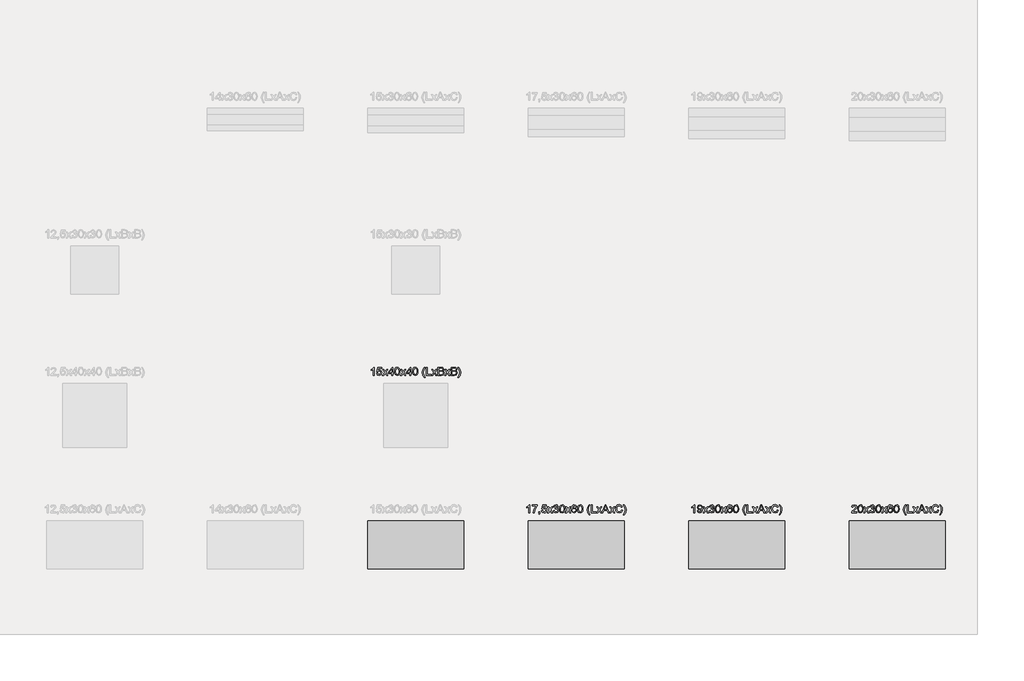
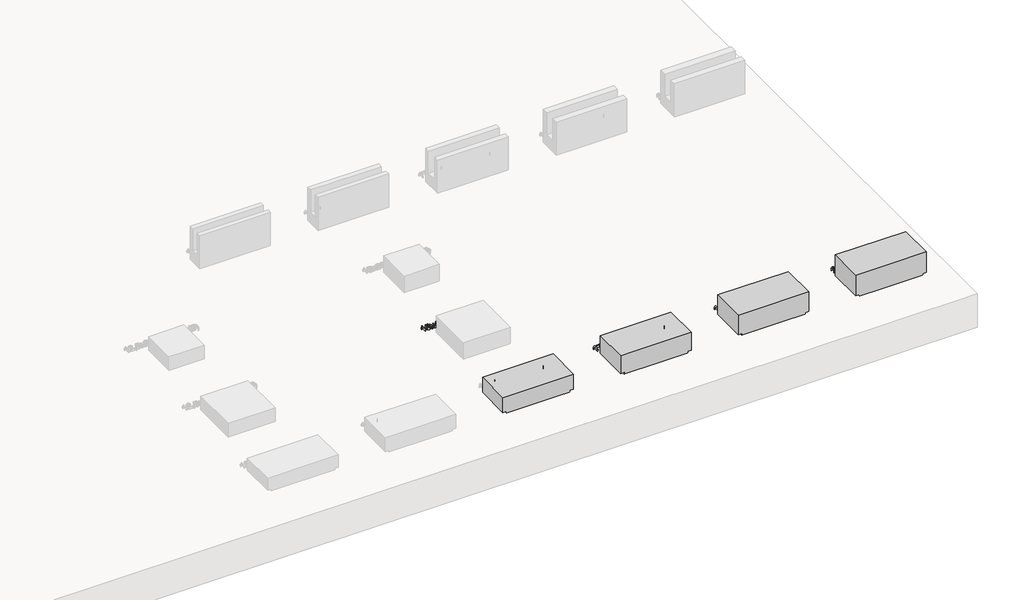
# One storey, part 7 of 26: 8 proxies.
"""IFC4 building model written with IfcOpenShell, lengths in millimetres."""

from ifc_helpers import new_model, si_unit, origin, origin_with_axes, place, context, project, spatial, polyline, outline, extrude, transform, mapped, element, save
from components import generic_models_699c91c1, generic_models_ba2a04ef, generic_models_78aa975b, generic_models_17415f59

model = new_model("IFC4")

# Units and contexts
model_context = context("Model", 3, world=origin())
ifc_project = project(units=[si_unit("LENGTHUNIT", "METRE", prefix="MILLI")], contexts=[model_context])

# Site, building, storey
site = spatial("IfcSite", under=ifc_project)
building = spatial("IfcBuilding", under=site)
storey = spatial("IfcBuildingStorey", under=building, Name="Catálogo Celucon", Elevation=0.0)

# Proxies
placement = place(None, origin())
element("IfcBuildingElementProxy", 1, Name="Dimensões", ObjectType="Dimensões", at=placement, inside=storey, context=model_context, shape_type="SweptSolid", body=[
    extrude(outline(polyline([(-6756.0644853, -3742.533155), (-6762.3430047, -3742.533155), (-6762.3430047, -3703.3905107), (-6768.2904303, -3707.6272851), (-6774.9000435, -3710.7972016), (-6774.9000435, -3704.8620387), (-6765.6968622, -3698.9881895), (-6760.1111873, -3692.305), (-6756.0644853, -3692.305), (-6756.0644853, -3742.533155)])), origin_with_axes(), (0.0, 0.0, 1.0), 20.0),
    extrude(outline(polyline([(-6741.1530018, -3729.1913013), (-6734.8744824, -3728.4064864), (-6731.7106972, -3734.8750782), (-6725.150135, -3737.0394506), (-6717.2774603, -3734.0289496), (-6714.4692944, -3726.0397789), (-6717.0996507, -3718.5840371), (-6725.0520331, -3715.8494476), (-6730.5641317, -3716.9408309), (-6734.0896675, -3719.7735223), (-6740.3681868, -3718.9887073), (-6734.8744824, -3693.0898149), (-6710.5452198, -3693.0898149), (-6710.5452198, -3699.3683343), (-6729.7977109, -3699.3683343), (-6732.4832494, -3713.2006973), (-6723.2984623, -3709.5709283), (-6712.5624394, -3714.0713513), (-6708.190775, -3725.6473714), (-6712.1271124, -3737.296968), (-6717.7802323, -3741.8127195), (-6725.1746604, -3743.31797), (-6736.2540399, -3739.4490776), (-6741.1530018, -3729.1913013)])), origin_with_axes(), (0.0, 0.0, 1.0), 20.0),
    extrude(outline(polyline([(-6705.0515153, -3742.533155), (-6691.6360852, -3723.9919025), (-6704.2667004, -3705.6468536), (-6696.7128568, -3705.6468536), (-6690.6182784, -3714.4760215), (-6687.7733243, -3718.6453508), (-6685.3085149, -3715.236311), (-6678.3678079, -3705.6468536), (-6670.8139643, -3705.6468536), (-6684.0822416, -3723.9919025), (-6671.3044736, -3742.533155), (-6678.8583173, -3742.533155), (-6686.547051, -3731.3863306), (-6687.9572653, -3729.3507169), (-6697.4976717, -3742.533155), (-6705.0515153, -3742.533155)])), origin_with_axes(), (0.0, 0.0, 1.0), 20.0),
    extrude(outline(polyline([(-6646.975211, -3742.533155), (-6646.975211, -3730.7609312), (-6669.7348438, -3730.7609312), (-6669.7348438, -3724.4824118), (-6645.4055812, -3693.0898149), (-6640.6966916, -3693.0898149), (-6640.6966916, -3724.4824118), (-6634.4181722, -3724.4824118), (-6634.4181722, -3730.7609312), (-6640.6966916, -3730.7609312), (-6640.6966916, -3742.533155), (-6646.975211, -3742.533155)]), holes=[polyline([(-6646.975211, -3724.4824118), (-6646.975211, -3705.0827679), (-6662.0093219, -3724.4824118), (-6646.975211, -3724.4824118)])]), origin_with_axes(), (0.0, 0.0, 1.0), 20.0),
    extrude(outline(polyline([(-6628.9244678, -3717.8237477), (-6627.0789264, -3703.3721166), (-6621.5974847, -3695.0395894), (-6612.4433544, -3692.305), (-6605.11024, -3693.9236807), (-6600.0457312, -3698.5896507), (-6597.1026752, -3706.020867), (-6595.962241, -3717.8237477), (-6597.7893883, -3732.2140651), (-6603.2524359, -3740.5649864), (-6612.4433544, -3743.31797), (-6623.9212726, -3738.535504), (-6627.673669, -3730.0404956), (-6628.9244678, -3717.8237477)]), holes=[polyline([(-6622.6459484, -3717.811485), (-6619.7028924, -3733.4035502), (-6612.4433544, -3737.0394506), (-6605.1838164, -3733.3912874), (-6602.2407604, -3717.811485), (-6605.0857145, -3702.3972294), (-6612.5169308, -3698.5835193), (-6619.6047906, -3701.9435082), (-6622.6459484, -3717.811485)])]), origin_with_axes(), (0.0, 0.0, 1.0), 20.0),
    extrude(outline(polyline([(-6592.8229813, -3742.533155), (-6579.4075512, -3723.9919025), (-6592.0381664, -3705.6468536), (-6584.4843228, -3705.6468536), (-6578.3897444, -3714.4760215), (-6575.5447903, -3718.6453508), (-6573.0799809, -3715.236311), (-6566.1392739, -3705.6468536), (-6558.5854303, -3705.6468536), (-6571.8537076, -3723.9919025), (-6559.0759396, -3742.533155), (-6566.6297833, -3742.533155), (-6574.318517, -3731.3863306), (-6575.7287313, -3729.3507169), (-6585.2691377, -3742.533155), (-6592.8229813, -3742.533155)])), origin_with_axes(), (0.0, 0.0, 1.0), 20.0),
    extrude(outline(polyline([(-6534.746677, -3742.533155), (-6534.746677, -3730.7609312), (-6557.5063098, -3730.7609312), (-6557.5063098, -3724.4824118), (-6533.1770472, -3693.0898149), (-6528.4681576, -3693.0898149), (-6528.4681576, -3724.4824118), (-6522.1896382, -3724.4824118), (-6522.1896382, -3730.7609312), (-6528.4681576, -3730.7609312), (-6528.4681576, -3742.533155), (-6534.746677, -3742.533155)]), holes=[polyline([(-6534.746677, -3724.4824118), (-6534.746677, -3705.0827679), (-6549.7807879, -3724.4824118), (-6534.746677, -3724.4824118)])]), origin_with_axes(), (0.0, 0.0, 1.0), 20.0),
    extrude(outline(polyline([(-6516.6959338, -3717.8237477), (-6514.8503924, -3703.3721166), (-6509.3689507, -3695.0395894), (-6500.2148204, -3692.305), (-6492.881706, -3693.9236807), (-6487.8171972, -3698.5896507), (-6484.8741412, -3706.020867), (-6483.733707, -3717.8237477), (-6485.5608543, -3732.2140651), (-6491.0239019, -3740.5649864), (-6500.2148204, -3743.31797), (-6511.6927386, -3738.535504), (-6515.445135, -3730.0404956), (-6516.6959338, -3717.8237477)]), holes=[polyline([(-6510.4174144, -3717.811485), (-6507.4743584, -3733.4035502), (-6500.2148204, -3737.0394506), (-6492.9552824, -3733.3912874), (-6490.0122264, -3717.811485), (-6492.8571805, -3702.3972294), (-6500.2883968, -3698.5835193), (-6507.3762566, -3701.9435082), (-6510.4174144, -3717.811485)])]), origin_with_axes(), (0.0, 0.0, 1.0), 20.0),
    extrude(outline(polyline([(-6444.4929609, -3756.6598236), (-6453.4079679, -3741.9322811), (-6457.0499996, -3724.4456236), (-6454.3276729, -3709.1785208), (-6444.4929609, -3692.305), (-6439.7840713, -3692.305), (-6445.6579205, -3702.2500766), (-6449.1895877, -3711.8885848), (-6450.7714802, -3724.4824118), (-6448.024628, -3740.5772491), (-6439.7840713, -3756.6598236), (-6444.4929609, -3756.6598236)])), origin_with_axes(), (0.0, 0.0, 1.0), 20.0),
    extrude(outline(polyline([(-6432.720737, -3742.533155), (-6432.720737, -3692.305), (-6426.4422176, -3692.305), (-6426.4422176, -3736.2546356), (-6401.3281401, -3736.2546356), (-6401.3281401, -3742.533155), (-6432.720737, -3742.533155)])), origin_with_axes(), (0.0, 0.0, 1.0), 20.0),
    extrude(outline(polyline([(-6398.9736953, -3742.533155), (-6385.5582652, -3723.9919025), (-6398.1888804, -3705.6468536), (-6390.6350368, -3705.6468536), (-6384.5404584, -3714.4760215), (-6381.6955043, -3718.6453508), (-6379.2306949, -3715.236311), (-6372.2899879, -3705.6468536), (-6364.7361443, -3705.6468536), (-6378.0044216, -3723.9919025), (-6365.2266536, -3742.533155), (-6372.7804973, -3742.533155), (-6380.469231, -3731.3863306), (-6381.8794453, -3729.3507169), (-6391.4198517, -3742.533155), (-6398.9736953, -3742.533155)])), origin_with_axes(), (0.0, 0.0, 1.0), 20.0),
    extrude(outline(polyline([(-6358.9481342, -3742.533155), (-6358.9481342, -3692.305), (-6339.7814823, -3692.305), (-6330.3943601, -3693.7826593), (-6324.8516047, -3698.3260019), (-6322.8466478, -3704.7516741), (-6324.5327736, -3710.6193919), (-6329.6279392, -3715.0646327), (-6323.4413903, -3719.7489968), (-6321.2770179, -3727.5603578), (-6322.7546773, -3734.3109924), (-6326.4151031, -3739.1179838), (-6331.8781508, -3741.6686323), (-6339.9286351, -3742.533155), (-6358.9481342, -3742.533155)]), holes=[polyline([(-6352.6696149, -3712.710188), (-6341.2039593, -3712.710188), (-6334.508507, -3712.1706277), (-6330.4801992, -3709.8468398), (-6329.1251672, -3705.7572182), (-6330.3882287, -3701.6614654), (-6334.005735, -3699.2395756), (-6342.0746134, -3698.5835193), (-6352.6696149, -3698.5835193), (-6352.6696149, -3712.710188)]), polyline([(-6352.6696149, -3736.2546356), (-6339.793745, -3736.2546356), (-6335.1339064, -3736.009381), (-6331.1914377, -3734.6420862), (-6328.5794755, -3731.8523144), (-6327.5555373, -3727.6216715), (-6328.7572852, -3722.7411037), (-6332.650703, -3719.8287046), (-6340.4068817, -3718.9887073), (-6352.6696149, -3718.9887073), (-6352.6696149, -3736.2546356)])]), origin_with_axes(), (0.0, 0.0, 1.0), 20.0),
    extrude(outline(polyline([(-6317.3529433, -3742.533155), (-6303.9375132, -3723.9919025), (-6316.5681284, -3705.6468536), (-6309.0142848, -3705.6468536), (-6302.9197064, -3714.4760215), (-6300.0747523, -3718.6453508), (-6297.6099429, -3715.236311), (-6290.6692359, -3705.6468536), (-6283.1153923, -3705.6468536), (-6296.3836696, -3723.9919025), (-6283.6059016, -3742.533155), (-6291.1597453, -3742.533155), (-6298.848479, -3731.3863306), (-6300.2586933, -3729.3507169), (-6309.7990997, -3742.533155), (-6317.3529433, -3742.533155)])), origin_with_axes(), (0.0, 0.0, 1.0), 20.0),
    extrude(outline(polyline([(-6277.3273823, -3742.533155), (-6277.3273823, -3692.305), (-6258.1607303, -3692.305), (-6248.7736081, -3693.7826593), (-6243.2308527, -3698.3260019), (-6241.2258958, -3704.7516741), (-6242.9120216, -3710.6193919), (-6248.0071872, -3715.0646327), (-6241.8206384, -3719.7489968), (-6239.6562659, -3727.5603578), (-6241.1339253, -3734.3109924), (-6244.7943511, -3739.1179838), (-6250.2573988, -3741.6686323), (-6258.3078831, -3742.533155), (-6277.3273823, -3742.533155)]), holes=[polyline([(-6271.0488629, -3712.710188), (-6259.5832074, -3712.710188), (-6252.887755, -3712.1706277), (-6248.8594472, -3709.8468398), (-6247.5044152, -3705.7572182), (-6248.7674767, -3701.6614654), (-6252.384983, -3699.2395756), (-6260.4538614, -3698.5835193), (-6271.0488629, -3698.5835193), (-6271.0488629, -3712.710188)]), polyline([(-6271.0488629, -3736.2546356), (-6258.172993, -3736.2546356), (-6253.5131544, -3736.009381), (-6249.5706857, -3734.6420862), (-6246.9587235, -3731.8523144), (-6245.9347853, -3727.6216715), (-6247.1365332, -3722.7411037), (-6251.029951, -3719.8287046), (-6258.7861297, -3718.9887073), (-6271.0488629, -3718.9887073), (-6271.0488629, -3736.2546356)])]), origin_with_axes(), (0.0, 0.0, 1.0), 20.0),
    extrude(outline(polyline([(-6230.2384869, -3756.6598236), (-6234.9473764, -3756.6598236), (-6226.7068197, -3740.5772491), (-6223.9599675, -3724.4824118), (-6225.5418601, -3711.9989494), (-6229.036739, -3702.3481784), (-6234.9473764, -3692.305), (-6230.2384869, -3692.305), (-6220.4037749, -3709.1785208), (-6217.6814481, -3724.4456236), (-6221.341874, -3741.9322811), (-6230.2384869, -3756.6598236)])), origin_with_axes(), (0.0, 0.0, 1.0), 20.0),
])
element("IfcBuildingElementProxy", 2, Name="Dimensões", ObjectType="Dimensões", at=placement, inside=storey, context=model_context, shape_type="SweptSolid", body=[
    extrude(outline(polyline([(-5787.0646748, -4599.6760122), (-5793.3431942, -4599.6760122), (-5793.3431942, -4560.5333679), (-5799.2906197, -4564.7701422), (-5805.9002329, -4567.9400587), (-5805.9002329, -4562.0048959), (-5796.6970517, -4556.1310467), (-5791.1113767, -4549.4478571), (-5787.0646748, -4549.4478571), (-5787.0646748, -4599.6760122)])), origin_with_axes(), (0.0, 0.0, 1.0), 20.0),
    extrude(outline(polyline([(-5772.1531912, -4556.5111914), (-5772.1531912, -4550.232672), (-5739.1909645, -4550.232672), (-5739.1909645, -4555.3094436), (-5748.5412985, -4568.8168441), (-5755.6966033, -4586.0275901), (-5758.0265226, -4599.6760122), (-5764.305042, -4599.6760122), (-5761.8095758, -4585.5125554), (-5754.9608393, -4569.5035572), (-5745.4694838, -4556.5111914), (-5772.1531912, -4556.5111914)])), origin_with_axes(), (0.0, 0.0, 1.0), 20.0),
    extrude(outline(polyline([(-5730.5580003, -4599.6760122), (-5730.5580003, -4593.3974928), (-5724.2794809, -4593.3974928), (-5724.2794809, -4599.6760122), (-5725.4076524, -4606.095553), (-5728.9883705, -4609.8786062), (-5730.5580003, -4607.5241614), (-5728.2526065, -4604.8140974), (-5727.4310034, -4599.6760122), (-5730.5580003, -4599.6760122)])), origin_with_axes(), (0.0, 0.0, 1.0), 20.0),
    extrude(outline(polyline([(-5714.0768869, -4586.3341585), (-5707.7983675, -4585.5493436), (-5704.6345824, -4592.0179353), (-5698.0740201, -4594.1823077), (-5690.2013454, -4591.1718067), (-5687.3931795, -4583.1826361), (-5690.0235358, -4575.7268943), (-5697.9759183, -4572.9923048), (-5703.4880168, -4574.083688), (-5707.0135526, -4576.9163794), (-5713.292072, -4576.1315645), (-5707.7983675, -4550.232672), (-5683.4691049, -4550.232672), (-5683.4691049, -4556.5111914), (-5702.721596, -4556.5111914), (-5705.4071346, -4570.3435544), (-5696.2223474, -4566.7137854), (-5685.4863245, -4571.2142085), (-5681.1146602, -4582.7902286), (-5685.0509975, -4594.4398251), (-5690.7041175, -4598.9555766), (-5698.0985456, -4600.4608271), (-5709.177925, -4596.5919348), (-5714.0768869, -4586.3341585)])), origin_with_axes(), (0.0, 0.0, 1.0), 20.0),
    extrude(outline(polyline([(-5677.9754005, -4599.6760122), (-5664.5599704, -4581.1347596), (-5677.1905855, -4562.7897108), (-5669.6367419, -4562.7897108), (-5663.5421635, -4571.6188787), (-5660.6972094, -4575.7882079), (-5658.2324001, -4572.3791681), (-5651.2916931, -4562.7897108), (-5643.7378494, -4562.7897108), (-5657.0061267, -4581.1347596), (-5644.2283588, -4599.6760122), (-5651.7822024, -4599.6760122), (-5659.4709361, -4588.5291877), (-5660.8811504, -4586.493574), (-5670.4215568, -4599.6760122), (-5677.9754005, -4599.6760122)])), origin_with_axes(), (0.0, 0.0, 1.0), 20.0),
    extrude(outline(polyline([(-5640.3042842, -4586.3341585), (-5634.0257648, -4585.5493436), (-5630.5615427, -4592.1589567), (-5624.0806882, -4594.1823077), (-5616.4532681, -4591.3986673), (-5613.6205768, -4584.5070112), (-5616.4287427, -4578.013894), (-5623.5656534, -4575.4448514), (-5627.9679746, -4576.1315645), (-5627.2689988, -4569.8530451), (-5619.1388067, -4568.1239997), (-5615.9750215, -4562.5812443), (-5618.2681526, -4557.6700197), (-5624.17879, -4555.7263765), (-5630.1630038, -4557.6884138), (-5633.2409499, -4563.5745257), (-5639.5194692, -4562.7897108), (-5634.381384, -4552.942736), (-5624.3995192, -4549.4478571), (-5616.8272815, -4551.1707711), (-5611.5297808, -4555.8796606), (-5609.6965022, -4562.2133623), (-5611.4378103, -4568.0013724), (-5616.5881582, -4572.1584389), (-5609.7455531, -4576.4503955), (-5607.3420574, -4584.6173758), (-5612.1490488, -4595.8500394), (-5624.3014174, -4600.4608271), (-5635.3133518, -4596.5244897), (-5640.3042842, -4586.3341585)])), origin_with_axes(), (0.0, 0.0, 1.0), 20.0),
    extrude(outline(polyline([(-5601.8483529, -4574.9666048), (-5600.0028116, -4560.5149738), (-5594.5213699, -4552.1824466), (-5585.3672395, -4549.4478571), (-5578.0341251, -4551.0665379), (-5572.9696163, -4555.7325078), (-5570.0265603, -4563.1637241), (-5568.8861262, -4574.9666048), (-5570.7132734, -4589.3569222), (-5576.176321, -4597.7078435), (-5585.3672395, -4600.4608271), (-5596.8451578, -4595.6783612), (-5600.5975541, -4587.1833528), (-5601.8483529, -4574.9666048)]), holes=[polyline([(-5595.5698335, -4574.9543421), (-5592.6267776, -4590.5464073), (-5585.3672395, -4594.1823077), (-5578.1077015, -4590.5341446), (-5575.1646455, -4574.9543421), (-5578.0095996, -4559.5400865), (-5585.4408159, -4555.7263765), (-5592.5286757, -4559.0863654), (-5595.5698335, -4574.9543421)])]), origin_with_axes(), (0.0, 0.0, 1.0), 20.0),
    extrude(outline(polyline([(-5565.7468665, -4599.6760122), (-5552.3314364, -4581.1347596), (-5564.9620515, -4562.7897108), (-5557.4082079, -4562.7897108), (-5551.3136295, -4571.6188787), (-5548.4686754, -4575.7882079), (-5546.0038661, -4572.3791681), (-5539.0631591, -4562.7897108), (-5531.5093155, -4562.7897108), (-5544.7775927, -4581.1347596), (-5531.9998248, -4599.6760122), (-5539.5536684, -4599.6760122), (-5547.2424021, -4588.5291877), (-5548.6526164, -4586.493574), (-5558.1930228, -4599.6760122), (-5565.7468665, -4599.6760122)])), origin_with_axes(), (0.0, 0.0, 1.0), 20.0),
    extrude(outline(polyline([(-5495.8983383, -4562.7897108), (-5502.1768577, -4563.5745257), (-5504.5558279, -4558.3383386), (-5510.8466101, -4555.7263765), (-5516.5119928, -4557.2469554), (-5520.797818, -4562.9552577), (-5522.5820457, -4574.1450017), (-5517.0454217, -4569.1356752), (-5510.1844225, -4567.4986003), (-5499.5158446, -4571.9744979), (-5495.1135234, -4583.5382553), (-5497.1859253, -4592.2018763), (-5502.8880962, -4598.3332429), (-5511.1163902, -4600.4608271), (-5523.9125523, -4594.8199698), (-5527.6235619, -4587.3519653), (-5528.8605651, -4576.2296663), (-5527.487139, -4563.7247442), (-5523.3668606, -4555.1745535), (-5517.7413318, -4550.8795312), (-5510.4542026, -4549.4478571), (-5500.5336515, -4552.991787), (-5495.8983383, -4562.7897108)]), holes=[polyline([(-5522.5820457, -4583.4401534), (-5521.1289118, -4588.8786756), (-5517.2661509, -4592.8272757), (-5511.6068995, -4594.1823077), (-5504.20634, -4591.3741418), (-5501.3920428, -4583.7467218), (-5504.1695518, -4576.4442642), (-5511.8644169, -4573.7771197), (-5519.4611801, -4576.4442642), (-5522.5820457, -4583.4401534)])]), origin_with_axes(), (0.0, 0.0, 1.0), 20.0),
    extrude(outline(polyline([(-5489.6198189, -4574.9666048), (-5487.7742776, -4560.5149738), (-5482.2928359, -4552.1824466), (-5473.1387056, -4549.4478571), (-5465.8055911, -4551.0665379), (-5460.7410823, -4555.7325078), (-5457.7980264, -4563.1637241), (-5456.6575922, -4574.9666048), (-5458.4847394, -4589.3569222), (-5463.947787, -4597.7078435), (-5473.1387056, -4600.4608271), (-5484.6166238, -4595.6783612), (-5488.3690202, -4587.1833528), (-5489.6198189, -4574.9666048)]), holes=[polyline([(-5483.3412996, -4574.9543421), (-5480.3982436, -4590.5464073), (-5473.1387056, -4594.1823077), (-5465.8791675, -4590.5341446), (-5462.9361116, -4574.9543421), (-5465.7810656, -4559.5400865), (-5473.212282, -4555.7263765), (-5480.3001417, -4559.0863654), (-5483.3412996, -4574.9543421)])]), origin_with_axes(), (0.0, 0.0, 1.0), 20.0),
    extrude(outline(polyline([(-5417.416846, -4613.8026808), (-5426.331853, -4599.0751382), (-5429.9738848, -4581.5884807), (-5427.251558, -4566.3213779), (-5417.416846, -4549.4478571), (-5412.7079565, -4549.4478571), (-5418.5818057, -4559.3929337), (-5422.1134728, -4569.031442), (-5423.6953654, -4581.6252689), (-5420.9485132, -4597.7201062), (-5412.7079565, -4613.8026808), (-5417.416846, -4613.8026808)])), origin_with_axes(), (0.0, 0.0, 1.0), 20.0),
    extrude(outline(polyline([(-5405.6446222, -4599.6760122), (-5405.6446222, -4549.4478571), (-5399.3661028, -4549.4478571), (-5399.3661028, -4593.3974928), (-5374.2520252, -4593.3974928), (-5374.2520252, -4599.6760122), (-5405.6446222, -4599.6760122)])), origin_with_axes(), (0.0, 0.0, 1.0), 20.0),
    extrude(outline(polyline([(-5337.7213431, -4599.6760122), (-5317.6717744, -4549.4478571), (-5312.3252227, -4549.4478571), (-5292.275654, -4599.6760122), (-5298.9097926, -4599.6760122), (-5304.6610145, -4583.9797137), (-5325.3482454, -4583.9797137), (-5331.0872045, -4599.6760122), (-5337.7213431, -4599.6760122)]), holes=[polyline([(-5323.0428515, -4577.7011943), (-5306.9541456, -4577.7011943), (-5311.4790941, -4565.352622), (-5314.9984986, -4555.7263765), (-5318.1254955, -4564.2735015), (-5323.0428515, -4577.7011943)])]), origin_with_axes(), (0.0, 0.0, 1.0), 20.0),
    extrude(outline(polyline([(-5371.8975805, -4599.6760122), (-5358.4821504, -4581.1347596), (-5371.1127656, -4562.7897108), (-5363.5589219, -4562.7897108), (-5357.4643435, -4571.6188787), (-5354.6193894, -4575.7882079), (-5352.1545801, -4572.3791681), (-5345.2138731, -4562.7897108), (-5337.6600295, -4562.7897108), (-5350.9283068, -4581.1347596), (-5338.1505388, -4599.6760122), (-5345.7043824, -4599.6760122), (-5353.3931161, -4588.5291877), (-5354.8033304, -4586.493574), (-5364.3437368, -4599.6760122), (-5371.8975805, -4599.6760122)])), origin_with_axes(), (0.0, 0.0, 1.0), 20.0),
    extrude(outline(polyline([(-5290.2768285, -4599.6760122), (-5276.8613984, -4581.1347596), (-5289.4920136, -4562.7897108), (-5281.9381699, -4562.7897108), (-5275.8435915, -4571.6188787), (-5272.9986374, -4575.7882079), (-5270.5338281, -4572.3791681), (-5263.5931211, -4562.7897108), (-5256.0392775, -4562.7897108), (-5269.3075548, -4581.1347596), (-5256.5297868, -4599.6760122), (-5264.0836304, -4599.6760122), (-5271.7723641, -4588.5291877), (-5273.1825784, -4586.493574), (-5282.7229848, -4599.6760122), (-5290.2768285, -4599.6760122)])), origin_with_axes(), (0.0, 0.0, 1.0), 20.0),
    extrude(outline(polyline([(-5214.9345959, -4581.8214727), (-5208.6560765, -4583.4401534), (-5216.0995555, -4596.1014255), (-5229.2452055, -4600.4608271), (-5242.3111477, -4597.1621519), (-5249.9753559, -4587.6094827), (-5252.6057122, -4574.1817899), (-5249.6319994, -4560.5333679), (-5241.1768449, -4551.6858059), (-5229.1103154, -4548.6630422), (-5216.5348825, -4552.5748541), (-5209.4408914, -4563.5867884), (-5215.7194108, -4565.0828419), (-5220.8697587, -4557.3634514), (-5229.3555701, -4554.9415616), (-5239.1780194, -4557.6271001), (-5244.7269061, -4564.8375872), (-5246.3271928, -4574.1695272), (-5244.4326005, -4584.9852578), (-5238.5342259, -4591.895308), (-5229.8706049, -4594.1823077), (-5220.2627534, -4591.0675735), (-5214.9345959, -4581.8214727)])), origin_with_axes(), (0.0, 0.0, 1.0), 20.0),
    extrude(outline(polyline([(-5199.2382974, -4613.8026808), (-5203.9471869, -4613.8026808), (-5195.7066303, -4597.7201062), (-5192.959778, -4581.6252689), (-5194.5416706, -4569.1418066), (-5198.0365496, -4559.4910356), (-5203.9471869, -4549.4478571), (-5199.2382974, -4549.4478571), (-5189.4035854, -4566.3213779), (-5186.6812586, -4581.5884807), (-5190.3416845, -4599.0751382), (-5199.2382974, -4613.8026808)])), origin_with_axes(), (0.0, 0.0, 1.0), 20.0),
])
element("IfcBuildingElementProxy", 3, Name="Dimensões", ObjectType="Dimensões", at=placement, inside=storey, context=model_context, shape_type="SweptSolid", body=[
    extrude(outline(polyline([(-4758.0265226, -4599.6760122), (-4764.305042, -4599.6760122), (-4764.305042, -4560.5333679), (-4770.2524676, -4564.7701422), (-4776.8620808, -4567.9400587), (-4776.8620808, -4562.0048959), (-4767.6588995, -4556.1310467), (-4762.0732246, -4549.4478571), (-4758.0265226, -4549.4478571), (-4758.0265226, -4599.6760122)])), origin_with_axes(), (0.0, 0.0, 1.0), 20.0),
    extrude(outline(polyline([(-4742.3302242, -4587.1189734), (-4736.0517048, -4586.3341585), (-4733.2312761, -4592.3245036), (-4727.8847245, -4594.1823077), (-4722.8018216, -4592.9866912), (-4719.3559936, -4589.7922492), (-4717.3019857, -4584.335333), (-4716.3945435, -4577.0512695), (-4721.4529209, -4580.5829366), (-4728.3384456, -4582.4100839), (-4738.8292138, -4577.946449), (-4743.1150391, -4566.1864879), (-4738.6207474, -4554.046382), (-4727.357427, -4549.4478571), (-4718.4117631, -4552.072082), (-4712.255871, -4559.5523492), (-4710.1528123, -4573.6054414), (-4712.2497397, -4588.8541501), (-4718.4853395, -4597.4932457), (-4728.1790301, -4600.4608271), (-4737.8298011, -4596.9598168), (-4742.3302242, -4587.1189734)]), holes=[polyline([(-4716.4313317, -4566.0393351), (-4719.1413957, -4558.5100169), (-4726.3396201, -4555.7263765), (-4733.8934637, -4558.7246147), (-4736.8365197, -4566.4930562), (-4734.0528793, -4573.4521573), (-4726.5112984, -4576.1315645), (-4719.2701544, -4573.4521573), (-4716.4313317, -4566.0393351)])]), origin_with_axes(), (0.0, 0.0, 1.0), 20.0),
    extrude(outline(polyline([(-4707.0135526, -4599.6760122), (-4693.5981225, -4581.1347596), (-4706.2287377, -4562.7897108), (-4698.6748941, -4562.7897108), (-4692.5803157, -4571.6188787), (-4689.7353616, -4575.7882079), (-4687.2705522, -4572.3791681), (-4680.3298452, -4562.7897108), (-4672.7760016, -4562.7897108), (-4686.0442789, -4581.1347596), (-4673.2665109, -4599.6760122), (-4680.8203546, -4599.6760122), (-4688.5090883, -4588.5291877), (-4689.9193026, -4586.493574), (-4699.459709, -4599.6760122), (-4707.0135526, -4599.6760122)])), origin_with_axes(), (0.0, 0.0, 1.0), 20.0),
    extrude(outline(polyline([(-4669.3424363, -4586.3341585), (-4663.0639169, -4585.5493436), (-4659.5996948, -4592.1589567), (-4653.1188403, -4594.1823077), (-4645.4914203, -4591.3986673), (-4642.6587289, -4584.5070112), (-4645.4668948, -4578.013894), (-4652.6038055, -4575.4448514), (-4657.0061267, -4576.1315645), (-4656.3071509, -4569.8530451), (-4648.1769589, -4568.1239997), (-4645.0131737, -4562.5812443), (-4647.3063048, -4557.6700197), (-4653.2169422, -4555.7263765), (-4659.201156, -4557.6884138), (-4662.279102, -4563.5745257), (-4668.5576214, -4562.7897108), (-4663.4195362, -4552.942736), (-4653.4376714, -4549.4478571), (-4645.8654337, -4551.1707711), (-4640.5679329, -4555.8796606), (-4638.7346543, -4562.2133623), (-4640.4759624, -4568.0013724), (-4645.6263104, -4572.1584389), (-4638.7837052, -4576.4503955), (-4636.3802095, -4584.6173758), (-4641.1872009, -4595.8500394), (-4653.3395695, -4600.4608271), (-4664.3515039, -4596.5244897), (-4669.3424363, -4586.3341585)])), origin_with_axes(), (0.0, 0.0, 1.0), 20.0),
    extrude(outline(polyline([(-4630.8865051, -4574.9666048), (-4629.0409637, -4560.5149738), (-4623.559522, -4552.1824466), (-4614.4053917, -4549.4478571), (-4607.0722773, -4551.0665379), (-4602.0077685, -4555.7325078), (-4599.0647125, -4563.1637241), (-4597.9242783, -4574.9666048), (-4599.7514256, -4589.3569222), (-4605.2144732, -4597.7078435), (-4614.4053917, -4600.4608271), (-4625.8833099, -4595.6783612), (-4629.6357063, -4587.1833528), (-4630.8865051, -4574.9666048)]), holes=[polyline([(-4624.6079857, -4574.9543421), (-4621.6649297, -4590.5464073), (-4614.4053917, -4594.1823077), (-4607.1458537, -4590.5341446), (-4604.2027977, -4574.9543421), (-4607.0477518, -4559.5400865), (-4614.4789681, -4555.7263765), (-4621.5668279, -4559.0863654), (-4624.6079857, -4574.9543421)])]), origin_with_axes(), (0.0, 0.0, 1.0), 20.0),
    extrude(outline(polyline([(-4594.7850186, -4599.6760122), (-4581.3695885, -4581.1347596), (-4594.0002037, -4562.7897108), (-4586.4463601, -4562.7897108), (-4580.3517817, -4571.6188787), (-4577.5068276, -4575.7882079), (-4575.0420182, -4572.3791681), (-4568.1013112, -4562.7897108), (-4560.5474676, -4562.7897108), (-4573.8157449, -4581.1347596), (-4561.0379769, -4599.6760122), (-4568.5918206, -4599.6760122), (-4576.2805543, -4588.5291877), (-4577.6907686, -4586.493574), (-4587.231175, -4599.6760122), (-4594.7850186, -4599.6760122)])), origin_with_axes(), (0.0, 0.0, 1.0), 20.0),
    extrude(outline(polyline([(-4524.9364905, -4562.7897108), (-4531.2150099, -4563.5745257), (-4533.5939801, -4558.3383386), (-4539.8847622, -4555.7263765), (-4545.5501449, -4557.2469554), (-4549.8359702, -4562.9552577), (-4551.6201979, -4574.1450017), (-4546.0835738, -4569.1356752), (-4539.2225746, -4567.4986003), (-4528.5539968, -4571.9744979), (-4524.1516755, -4583.5382553), (-4526.2240775, -4592.2018763), (-4531.9262484, -4598.3332429), (-4540.1545423, -4600.4608271), (-4552.9507044, -4594.8199698), (-4556.661714, -4587.3519653), (-4557.8987172, -4576.2296663), (-4556.5252911, -4563.7247442), (-4552.4050128, -4555.1745535), (-4546.7794839, -4550.8795312), (-4539.4923547, -4549.4478571), (-4529.5718036, -4552.991787), (-4524.9364905, -4562.7897108)]), holes=[polyline([(-4551.6201979, -4583.4401534), (-4550.167064, -4588.8786756), (-4546.304303, -4592.8272757), (-4540.6450517, -4594.1823077), (-4533.2444922, -4591.3741418), (-4530.4301949, -4583.7467218), (-4533.207704, -4576.4442642), (-4540.9025691, -4573.7771197), (-4548.4993323, -4576.4442642), (-4551.6201979, -4583.4401534)])]), origin_with_axes(), (0.0, 0.0, 1.0), 20.0),
    extrude(outline(polyline([(-4518.6579711, -4574.9666048), (-4516.8124297, -4560.5149738), (-4511.330988, -4552.1824466), (-4502.1768577, -4549.4478571), (-4494.8437433, -4551.0665379), (-4489.7792345, -4555.7325078), (-4486.8361785, -4563.1637241), (-4485.6957443, -4574.9666048), (-4487.5228916, -4589.3569222), (-4492.9859392, -4597.7078435), (-4502.1768577, -4600.4608271), (-4513.654776, -4595.6783612), (-4517.4071723, -4587.1833528), (-4518.6579711, -4574.9666048)]), holes=[polyline([(-4512.3794517, -4574.9543421), (-4509.4363957, -4590.5464073), (-4502.1768577, -4594.1823077), (-4494.9173197, -4590.5341446), (-4491.9742637, -4574.9543421), (-4494.8192178, -4559.5400865), (-4502.2504341, -4555.7263765), (-4509.3382939, -4559.0863654), (-4512.3794517, -4574.9543421)])]), origin_with_axes(), (0.0, 0.0, 1.0), 20.0),
    extrude(outline(polyline([(-4446.4549982, -4613.8026808), (-4455.3700052, -4599.0751382), (-4459.0120369, -4581.5884807), (-4456.2897102, -4566.3213779), (-4446.4549982, -4549.4478571), (-4441.7461086, -4549.4478571), (-4447.6199578, -4559.3929337), (-4451.151625, -4569.031442), (-4452.7335176, -4581.6252689), (-4449.9866653, -4597.7201062), (-4441.7461086, -4613.8026808), (-4446.4549982, -4613.8026808)])), origin_with_axes(), (0.0, 0.0, 1.0), 20.0),
    extrude(outline(polyline([(-4434.6827743, -4599.6760122), (-4434.6827743, -4549.4478571), (-4428.4042549, -4549.4478571), (-4428.4042549, -4593.3974928), (-4403.2901774, -4593.3974928), (-4403.2901774, -4599.6760122), (-4434.6827743, -4599.6760122)])), origin_with_axes(), (0.0, 0.0, 1.0), 20.0),
    extrude(outline(polyline([(-4366.7594953, -4599.6760122), (-4346.7099265, -4549.4478571), (-4341.3633749, -4549.4478571), (-4321.3138061, -4599.6760122), (-4327.9479448, -4599.6760122), (-4333.6991666, -4583.9797137), (-4354.3863975, -4583.9797137), (-4360.1253566, -4599.6760122), (-4366.7594953, -4599.6760122)]), holes=[polyline([(-4352.0810037, -4577.7011943), (-4335.9922977, -4577.7011943), (-4340.5172463, -4565.352622), (-4344.0366507, -4555.7263765), (-4347.1636477, -4564.2735015), (-4352.0810037, -4577.7011943)])]), origin_with_axes(), (0.0, 0.0, 1.0), 20.0),
    extrude(outline(polyline([(-4400.9357326, -4599.6760122), (-4387.5203025, -4581.1347596), (-4400.1509177, -4562.7897108), (-4392.5970741, -4562.7897108), (-4386.5024957, -4571.6188787), (-4383.6575416, -4575.7882079), (-4381.1927322, -4572.3791681), (-4374.2520252, -4562.7897108), (-4366.6981816, -4562.7897108), (-4379.9664589, -4581.1347596), (-4367.1886909, -4599.6760122), (-4374.7425346, -4599.6760122), (-4382.4312683, -4588.5291877), (-4383.8414826, -4586.493574), (-4393.381889, -4599.6760122), (-4400.9357326, -4599.6760122)])), origin_with_axes(), (0.0, 0.0, 1.0), 20.0),
    extrude(outline(polyline([(-4319.3149806, -4599.6760122), (-4305.8995505, -4581.1347596), (-4318.5301657, -4562.7897108), (-4310.9763221, -4562.7897108), (-4304.8817437, -4571.6188787), (-4302.0367896, -4575.7882079), (-4299.5719802, -4572.3791681), (-4292.6312733, -4562.7897108), (-4285.0774296, -4562.7897108), (-4298.3457069, -4581.1347596), (-4285.5679389, -4599.6760122), (-4293.1217826, -4599.6760122), (-4300.8105163, -4588.5291877), (-4302.2207306, -4586.493574), (-4311.761137, -4599.6760122), (-4319.3149806, -4599.6760122)])), origin_with_axes(), (0.0, 0.0, 1.0), 20.0),
    extrude(outline(polyline([(-4243.972748, -4581.8214727), (-4237.6942286, -4583.4401534), (-4245.1377077, -4596.1014255), (-4258.2833576, -4600.4608271), (-4271.3492998, -4597.1621519), (-4279.0135081, -4587.6094827), (-4281.6438643, -4574.1817899), (-4278.6701515, -4560.5333679), (-4270.214997, -4551.6858059), (-4258.1484676, -4548.6630422), (-4245.5730347, -4552.5748541), (-4238.4790436, -4563.5867884), (-4244.7575629, -4565.0828419), (-4249.9079109, -4557.3634514), (-4258.3937222, -4554.9415616), (-4268.2161715, -4557.6271001), (-4273.7650583, -4564.8375872), (-4275.3653449, -4574.1695272), (-4273.4707527, -4584.9852578), (-4267.572378, -4591.895308), (-4258.908757, -4594.1823077), (-4249.3009056, -4591.0675735), (-4243.972748, -4581.8214727)])), origin_with_axes(), (0.0, 0.0, 1.0), 20.0),
    extrude(outline(polyline([(-4228.2764496, -4613.8026808), (-4232.9853391, -4613.8026808), (-4224.7447824, -4597.7201062), (-4221.9979302, -4581.6252689), (-4223.5798228, -4569.1418066), (-4227.0747017, -4559.4910356), (-4232.9853391, -4549.4478571), (-4228.2764496, -4549.4478571), (-4218.4417376, -4566.3213779), (-4215.7194108, -4581.5884807), (-4219.3798366, -4599.0751382), (-4228.2764496, -4613.8026808)])), origin_with_axes(), (0.0, 0.0, 1.0), 20.0),
])
element("IfcBuildingElementProxy", 4, Name="Dimensões", ObjectType="Dimensões", at=placement, inside=storey, context=model_context, shape_type="SweptSolid", body=[
    extrude(outline(polyline([(-3749.3935585, -4593.3974928), (-3749.3935585, -4599.6760122), (-3782.3557852, -4599.6760122), (-3781.6813349, -4595.3472674), (-3777.8676249, -4588.6824719), (-3770.0072129, -4581.4045397), (-3759.1669568, -4570.9444283), (-3756.4568928, -4563.8320431), (-3759.0136726, -4558.0746899), (-3765.6907308, -4555.7263765), (-3772.6498319, -4558.0195076), (-3775.2924509, -4564.3593406), (-3781.5709703, -4563.5745257), (-3776.7578475, -4553.0653634), (-3765.5558408, -4549.4478571), (-3754.3170458, -4553.4700336), (-3750.1783734, -4563.4518984), (-3751.2942821, -4569.4054553), (-3755.0037589, -4575.5613474), (-3763.9984737, -4584.1636547), (-3771.2212235, -4590.2030508), (-3774.0539149, -4593.3974928), (-3749.3935585, -4593.3974928)])), origin_with_axes(), (0.0, 0.0, 1.0), 20.0),
    extrude(outline(polyline([(-3743.1150391, -4574.9666048), (-3741.2694977, -4560.5149738), (-3735.788056, -4552.1824466), (-3726.6339257, -4549.4478571), (-3719.3008113, -4551.0665379), (-3714.2363025, -4555.7325078), (-3711.2932465, -4563.1637241), (-3710.1528123, -4574.9666048), (-3711.9799596, -4589.3569222), (-3717.4430072, -4597.7078435), (-3726.6339257, -4600.4608271), (-3738.1118439, -4595.6783612), (-3741.8642403, -4587.1833528), (-3743.1150391, -4574.9666048)]), holes=[polyline([(-3736.8365197, -4574.9543421), (-3733.8934637, -4590.5464073), (-3726.6339257, -4594.1823077), (-3719.3743877, -4590.5341446), (-3716.4313317, -4574.9543421), (-3719.2762858, -4559.5400865), (-3726.7075021, -4555.7263765), (-3733.7953619, -4559.0863654), (-3736.8365197, -4574.9543421)])]), origin_with_axes(), (0.0, 0.0, 1.0), 20.0),
    extrude(outline(polyline([(-3707.0135526, -4599.6760122), (-3693.5981225, -4581.1347596), (-3706.2287377, -4562.7897108), (-3698.6748941, -4562.7897108), (-3692.5803157, -4571.6188787), (-3689.7353616, -4575.7882079), (-3687.2705522, -4572.3791681), (-3680.3298452, -4562.7897108), (-3672.7760016, -4562.7897108), (-3686.0442789, -4581.1347596), (-3673.2665109, -4599.6760122), (-3680.8203546, -4599.6760122), (-3688.5090883, -4588.5291877), (-3689.9193026, -4586.493574), (-3699.459709, -4599.6760122), (-3707.0135526, -4599.6760122)])), origin_with_axes(), (0.0, 0.0, 1.0), 20.0),
    extrude(outline(polyline([(-3669.3424363, -4586.3341585), (-3663.0639169, -4585.5493436), (-3659.5996948, -4592.1589567), (-3653.1188403, -4594.1823077), (-3645.4914203, -4591.3986673), (-3642.6587289, -4584.5070112), (-3645.4668948, -4578.013894), (-3652.6038055, -4575.4448514), (-3657.0061267, -4576.1315645), (-3656.3071509, -4569.8530451), (-3648.1769589, -4568.1239997), (-3645.0131737, -4562.5812443), (-3647.3063048, -4557.6700197), (-3653.2169422, -4555.7263765), (-3659.201156, -4557.6884138), (-3662.279102, -4563.5745257), (-3668.5576214, -4562.7897108), (-3663.4195362, -4552.942736), (-3653.4376714, -4549.4478571), (-3645.8654337, -4551.1707711), (-3640.5679329, -4555.8796606), (-3638.7346543, -4562.2133623), (-3640.4759624, -4568.0013724), (-3645.6263104, -4572.1584389), (-3638.7837052, -4576.4503955), (-3636.3802095, -4584.6173758), (-3641.1872009, -4595.8500394), (-3653.3395695, -4600.4608271), (-3664.3515039, -4596.5244897), (-3669.3424363, -4586.3341585)])), origin_with_axes(), (0.0, 0.0, 1.0), 20.0),
    extrude(outline(polyline([(-3630.8865051, -4574.9666048), (-3629.0409637, -4560.5149738), (-3623.559522, -4552.1824466), (-3614.4053917, -4549.4478571), (-3607.0722773, -4551.0665379), (-3602.0077685, -4555.7325078), (-3599.0647125, -4563.1637241), (-3597.9242783, -4574.9666048), (-3599.7514256, -4589.3569222), (-3605.2144732, -4597.7078435), (-3614.4053917, -4600.4608271), (-3625.8833099, -4595.6783612), (-3629.6357063, -4587.1833528), (-3630.8865051, -4574.9666048)]), holes=[polyline([(-3624.6079857, -4574.9543421), (-3621.6649297, -4590.5464073), (-3614.4053917, -4594.1823077), (-3607.1458537, -4590.5341446), (-3604.2027977, -4574.9543421), (-3607.0477518, -4559.5400865), (-3614.4789681, -4555.7263765), (-3621.5668279, -4559.0863654), (-3624.6079857, -4574.9543421)])]), origin_with_axes(), (0.0, 0.0, 1.0), 20.0),
    extrude(outline(polyline([(-3594.7850186, -4599.6760122), (-3581.3695885, -4581.1347596), (-3594.0002037, -4562.7897108), (-3586.4463601, -4562.7897108), (-3580.3517817, -4571.6188787), (-3577.5068276, -4575.7882079), (-3575.0420182, -4572.3791681), (-3568.1013112, -4562.7897108), (-3560.5474676, -4562.7897108), (-3573.8157449, -4581.1347596), (-3561.0379769, -4599.6760122), (-3568.5918206, -4599.6760122), (-3576.2805543, -4588.5291877), (-3577.6907686, -4586.493574), (-3587.231175, -4599.6760122), (-3594.7850186, -4599.6760122)])), origin_with_axes(), (0.0, 0.0, 1.0), 20.0),
    extrude(outline(polyline([(-3524.9364905, -4562.7897108), (-3531.2150099, -4563.5745257), (-3533.5939801, -4558.3383386), (-3539.8847622, -4555.7263765), (-3545.5501449, -4557.2469554), (-3549.8359702, -4562.9552577), (-3551.6201979, -4574.1450017), (-3546.0835738, -4569.1356752), (-3539.2225746, -4567.4986003), (-3528.5539968, -4571.9744979), (-3524.1516755, -4583.5382553), (-3526.2240775, -4592.2018763), (-3531.9262484, -4598.3332429), (-3540.1545423, -4600.4608271), (-3552.9507044, -4594.8199698), (-3556.661714, -4587.3519653), (-3557.8987172, -4576.2296663), (-3556.5252911, -4563.7247442), (-3552.4050128, -4555.1745535), (-3546.7794839, -4550.8795312), (-3539.4923547, -4549.4478571), (-3529.5718036, -4552.991787), (-3524.9364905, -4562.7897108)]), holes=[polyline([(-3551.6201979, -4583.4401534), (-3550.167064, -4588.8786756), (-3546.304303, -4592.8272757), (-3540.6450517, -4594.1823077), (-3533.2444922, -4591.3741418), (-3530.4301949, -4583.7467218), (-3533.207704, -4576.4442642), (-3540.9025691, -4573.7771197), (-3548.4993323, -4576.4442642), (-3551.6201979, -4583.4401534)])]), origin_with_axes(), (0.0, 0.0, 1.0), 20.0),
    extrude(outline(polyline([(-3518.6579711, -4574.9666048), (-3516.8124297, -4560.5149738), (-3511.330988, -4552.1824466), (-3502.1768577, -4549.4478571), (-3494.8437433, -4551.0665379), (-3489.7792345, -4555.7325078), (-3486.8361785, -4563.1637241), (-3485.6957443, -4574.9666048), (-3487.5228916, -4589.3569222), (-3492.9859392, -4597.7078435), (-3502.1768577, -4600.4608271), (-3513.654776, -4595.6783612), (-3517.4071723, -4587.1833528), (-3518.6579711, -4574.9666048)]), holes=[polyline([(-3512.3794517, -4574.9543421), (-3509.4363957, -4590.5464073), (-3502.1768577, -4594.1823077), (-3494.9173197, -4590.5341446), (-3491.9742637, -4574.9543421), (-3494.8192178, -4559.5400865), (-3502.2504341, -4555.7263765), (-3509.3382939, -4559.0863654), (-3512.3794517, -4574.9543421)])]), origin_with_axes(), (0.0, 0.0, 1.0), 20.0),
    extrude(outline(polyline([(-3446.4549982, -4613.8026808), (-3455.3700052, -4599.0751382), (-3459.0120369, -4581.5884807), (-3456.2897102, -4566.3213779), (-3446.4549982, -4549.4478571), (-3441.7461086, -4549.4478571), (-3447.6199578, -4559.3929337), (-3451.151625, -4569.031442), (-3452.7335176, -4581.6252689), (-3449.9866653, -4597.7201062), (-3441.7461086, -4613.8026808), (-3446.4549982, -4613.8026808)])), origin_with_axes(), (0.0, 0.0, 1.0), 20.0),
    extrude(outline(polyline([(-3434.6827743, -4599.6760122), (-3434.6827743, -4549.4478571), (-3428.4042549, -4549.4478571), (-3428.4042549, -4593.3974928), (-3403.2901774, -4593.3974928), (-3403.2901774, -4599.6760122), (-3434.6827743, -4599.6760122)])), origin_with_axes(), (0.0, 0.0, 1.0), 20.0),
    extrude(outline(polyline([(-3366.7594953, -4599.6760122), (-3346.7099265, -4549.4478571), (-3341.3633749, -4549.4478571), (-3321.3138061, -4599.6760122), (-3327.9479448, -4599.6760122), (-3333.6991666, -4583.9797137), (-3354.3863975, -4583.9797137), (-3360.1253566, -4599.6760122), (-3366.7594953, -4599.6760122)]), holes=[polyline([(-3352.0810037, -4577.7011943), (-3335.9922977, -4577.7011943), (-3340.5172463, -4565.352622), (-3344.0366507, -4555.7263765), (-3347.1636477, -4564.2735015), (-3352.0810037, -4577.7011943)])]), origin_with_axes(), (0.0, 0.0, 1.0), 20.0),
    extrude(outline(polyline([(-3400.9357326, -4599.6760122), (-3387.5203025, -4581.1347596), (-3400.1509177, -4562.7897108), (-3392.5970741, -4562.7897108), (-3386.5024957, -4571.6188787), (-3383.6575416, -4575.7882079), (-3381.1927322, -4572.3791681), (-3374.2520252, -4562.7897108), (-3366.6981816, -4562.7897108), (-3379.9664589, -4581.1347596), (-3367.1886909, -4599.6760122), (-3374.7425346, -4599.6760122), (-3382.4312683, -4588.5291877), (-3383.8414826, -4586.493574), (-3393.381889, -4599.6760122), (-3400.9357326, -4599.6760122)])), origin_with_axes(), (0.0, 0.0, 1.0), 20.0),
    extrude(outline(polyline([(-3319.3149806, -4599.6760122), (-3305.8995505, -4581.1347596), (-3318.5301657, -4562.7897108), (-3310.9763221, -4562.7897108), (-3304.8817437, -4571.6188787), (-3302.0367896, -4575.7882079), (-3299.5719802, -4572.3791681), (-3292.6312733, -4562.7897108), (-3285.0774296, -4562.7897108), (-3298.3457069, -4581.1347596), (-3285.5679389, -4599.6760122), (-3293.1217826, -4599.6760122), (-3300.8105163, -4588.5291877), (-3302.2207306, -4586.493574), (-3311.761137, -4599.6760122), (-3319.3149806, -4599.6760122)])), origin_with_axes(), (0.0, 0.0, 1.0), 20.0),
    extrude(outline(polyline([(-3243.972748, -4581.8214727), (-3237.6942286, -4583.4401534), (-3245.1377077, -4596.1014255), (-3258.2833576, -4600.4608271), (-3271.3492998, -4597.1621519), (-3279.0135081, -4587.6094827), (-3281.6438643, -4574.1817899), (-3278.6701515, -4560.5333679), (-3270.214997, -4551.6858059), (-3258.1484676, -4548.6630422), (-3245.5730347, -4552.5748541), (-3238.4790436, -4563.5867884), (-3244.7575629, -4565.0828419), (-3249.9079109, -4557.3634514), (-3258.3937222, -4554.9415616), (-3268.2161715, -4557.6271001), (-3273.7650583, -4564.8375872), (-3275.3653449, -4574.1695272), (-3273.4707527, -4584.9852578), (-3267.572378, -4591.895308), (-3258.908757, -4594.1823077), (-3249.3009056, -4591.0675735), (-3243.972748, -4581.8214727)])), origin_with_axes(), (0.0, 0.0, 1.0), 20.0),
    extrude(outline(polyline([(-3228.2764496, -4613.8026808), (-3232.9853391, -4613.8026808), (-3224.7447824, -4597.7201062), (-3221.9979302, -4581.6252689), (-3223.5798228, -4569.1418066), (-3227.0747017, -4559.4910356), (-3232.9853391, -4549.4478571), (-3228.2764496, -4549.4478571), (-3218.4417376, -4566.3213779), (-3215.7194108, -4581.5884807), (-3219.3798366, -4599.0751382), (-3228.2764496, -4613.8026808)])), origin_with_axes(), (0.0, 0.0, 1.0), 20.0),
])
generic_models_shape = generic_models_699c91c1(model_context)
element("IfcBuildingElementProxy", 5, Name="Módulo Laje de Concreto Celular com Friso - Celucon : MLCC friso 20x30x60cm (A x B x C)", ObjectType="Módulo Laje de Concreto Celular com Friso - Celucon : MLCC friso 20x30x60cm (A x B x C)", at=placement, inside=storey, context=model_context, shape_type="MappedRepresentation", body=[
    mapped(generic_models_shape, transform((-3497.8603756, -4799.6760122, 0.0), x_axis=(1.0, 0.0, 0.0), y_axis=(0.0, 1.0, 0.0), z_axis=(0.0, 0.0, 1.0))),
])
generic_models_2_shape = generic_models_ba2a04ef(model_context)
element("IfcBuildingElementProxy", 6, Name="Módulo Laje de Concreto Celular com Friso - Celucon : MLCC friso 19x30x60cm (A x B x C)", ObjectType="Módulo Laje de Concreto Celular com Friso - Celucon : MLCC friso 19x30x60cm (A x B x C)", at=placement, inside=storey, context=model_context, shape_type="MappedRepresentation", body=[
    mapped(generic_models_2_shape, transform((-4497.8603756, -4799.6760122, 0.0), x_axis=(1.0, 0.0, 0.0), y_axis=(0.0, 1.0, 0.0), z_axis=(0.0, 0.0, 1.0))),
])
generic_models_3_shape = generic_models_78aa975b(model_context)
element("IfcBuildingElementProxy", 7, Name="Módulo Laje de Concreto Celular com Friso - Celucon : MLCC friso 17,5x30x60cm (A x B x C)", ObjectType="Módulo Laje de Concreto Celular com Friso - Celucon : MLCC friso 17,5x30x60cm (A x B x C)", at=placement, inside=storey, context=model_context, shape_type="MappedRepresentation", body=[
    mapped(generic_models_3_shape, transform((-5497.8603756, -4799.6760122, 0.0), x_axis=(1.0, 0.0, 0.0), y_axis=(0.0, 1.0, 0.0), z_axis=(0.0, 0.0, 1.0))),
])
generic_models_4_shape = generic_models_17415f59(model_context)
element("IfcBuildingElementProxy", 8, Name="Módulo Laje de Concreto Celular com Friso - Celucon : MLCC friso 15x30x60cm (A x B x C)", ObjectType="Módulo Laje de Concreto Celular com Friso - Celucon : MLCC friso 15x30x60cm (A x B x C)", at=placement, inside=storey, context=model_context, shape_type="MappedRepresentation", body=[
    mapped(generic_models_4_shape, transform((-6497.8603756, -4799.6760122, 0.0), x_axis=(1.0, 0.0, 0.0), y_axis=(0.0, 1.0, 0.0), z_axis=(0.0, 0.0, 1.0))),
])

save(model, "model.ifc")
